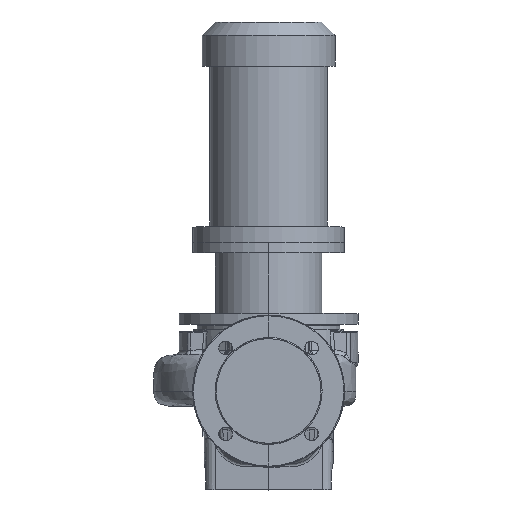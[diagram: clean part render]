
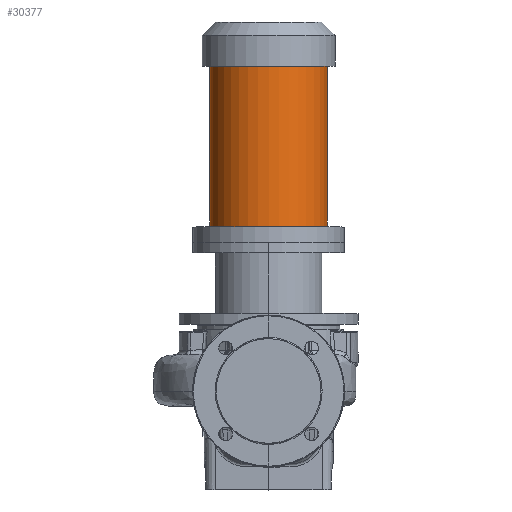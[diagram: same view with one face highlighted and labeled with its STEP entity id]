
A CAD part, top view. The second image highlights one B-rep face of the part: STEP entity #30377.
In plain terms, the highlighted cylindrical face has radius 77.5 mm (diameter 155 mm), a partial arc.
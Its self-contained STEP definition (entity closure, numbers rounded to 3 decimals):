
#3542 = VERTEX_POINT ( 'NONE', #54042 ) ;
#3603 = CARTESIAN_POINT ( 'NONE',  ( -77.5, 428.3, 0. ) ) ;
#4454 = LINE ( 'NONE', #6751, #49777 ) ;
#4553 = VERTEX_POINT ( 'NONE', #39558 ) ;
#4607 = LINE ( 'NONE', #22069, #37126 ) ;
#6751 = CARTESIAN_POINT ( 'NONE',  ( -77.5, 196.3, 0. ) ) ;
#12011 = DIRECTION ( 'NONE',  ( 0., -1., 0. ) ) ;
#13477 = DIRECTION ( 'NONE',  ( -1., 0., 0. ) ) ;
#13996 = CARTESIAN_POINT ( 'NONE',  ( 0., 216.3, 0. ) ) ;
#14256 = ORIENTED_EDGE ( 'NONE', *, *, #48750, .F. ) ;
#15858 = DIRECTION ( 'NONE',  ( -1., 0., 0. ) ) ;
#16327 = ORIENTED_EDGE ( 'NONE', *, *, #29891, .F. ) ;
#20598 = VERTEX_POINT ( 'NONE', #3603 ) ;
#22069 = CARTESIAN_POINT ( 'NONE',  ( 77.5, 196.3, 0. ) ) ;
#23243 = CARTESIAN_POINT ( 'NONE',  ( 0., 196.3, 0. ) ) ;
#23665 = AXIS2_PLACEMENT_3D ( 'NONE', #49644, #39979, #15858 ) ;
#23972 = DIRECTION ( 'NONE',  ( -1., 0., 0. ) ) ;
#28103 = DIRECTION ( 'NONE',  ( 0., -1., 0. ) ) ;
#28784 = CYLINDRICAL_SURFACE ( 'NONE', #54283, 77.5 ) ;
#29891 = EDGE_CURVE ( 'NONE', #3542, #4553, #4607, .T. ) ;
#30377 = ADVANCED_FACE ( 'NONE', ( #40131 ), #28784, .T. ) ;
#32299 = ORIENTED_EDGE ( 'NONE', *, *, #58544, .T. ) ;
#35790 = VERTEX_POINT ( 'NONE', #49721 ) ;
#37126 = VECTOR ( 'NONE', #41524, 1000. ) ;
#39558 = CARTESIAN_POINT ( 'NONE',  ( 77.5, 216.3, 0. ) ) ;
#39979 = DIRECTION ( 'NONE',  ( 0., -1., 0. ) ) ;
#40131 = FACE_OUTER_BOUND ( 'NONE', #41620, .T. ) ;
#41524 = DIRECTION ( 'NONE',  ( 0., -1., 0. ) ) ;
#41620 = EDGE_LOOP ( 'NONE', ( #16327, #42087, #32299, #14256 ) ) ;
#42087 = ORIENTED_EDGE ( 'NONE', *, *, #54392, .T. ) ;
#47824 = DIRECTION ( 'NONE',  ( 0., -1., 0. ) ) ;
#48750 = EDGE_CURVE ( 'NONE', #4553, #35790, #61489, .T. ) ;
#49644 = CARTESIAN_POINT ( 'NONE',  ( 0., 428.3, 0. ) ) ;
#49721 = CARTESIAN_POINT ( 'NONE',  ( -77.5, 216.3, 0. ) ) ;
#49777 = VECTOR ( 'NONE', #12011, 1000. ) ;
#54042 = CARTESIAN_POINT ( 'NONE',  ( 77.5, 428.3, 0. ) ) ;
#54283 = AXIS2_PLACEMENT_3D ( 'NONE', #23243, #28103, #13477 ) ;
#54392 = EDGE_CURVE ( 'NONE', #3542, #20598, #61631, .T. ) ;
#56553 = AXIS2_PLACEMENT_3D ( 'NONE', #13996, #47824, #23972 ) ;
#58544 = EDGE_CURVE ( 'NONE', #20598, #35790, #4454, .T. ) ;
#61489 = CIRCLE ( 'NONE', #56553, 77.5 ) ;
#61631 = CIRCLE ( 'NONE', #23665, 77.5 ) ;
